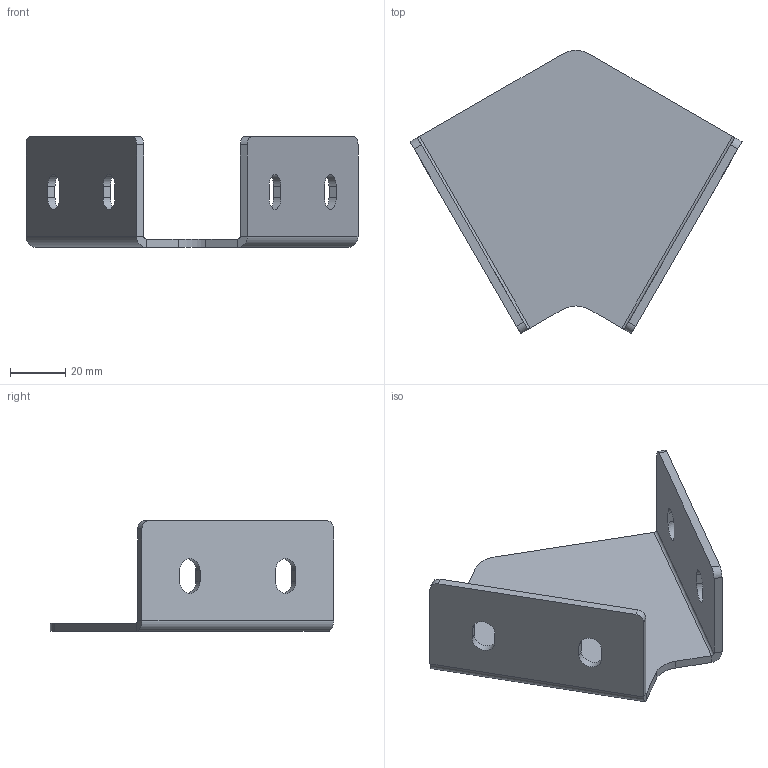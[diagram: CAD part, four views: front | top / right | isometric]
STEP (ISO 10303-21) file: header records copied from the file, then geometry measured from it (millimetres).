
FILE_DESCRIPTION (( 'STEP AP214' ), '1' );
FILE_NAME ('408060.STEP', '2018-02-22T10:03:03', ( '' ), ( '' ), 'SwSTEP 2.0', 'SolidWorks 2014', '' );
FILE_SCHEMA (( 'AUTOMOTIVE_DESIGN' ));
Length unit declared in the file: millimetre
Products named in the file (2): 408060
Bounding box: 120 x 102.38 x 40 mm (x, y, z)
Volume: 38303.1 mm3; surface area: 27395.3 mm2
Topology: 1 solids, 1 shells, 46 faces, 116 edges, 72 vertices
Faces by surface type: plane 28, cylinder 18
Entity records: 1433 total; most frequent: DIRECTION 248, CARTESIAN_POINT 236, ORIENTED_EDGE 232, EDGE_CURVE 116, AXIS2_PLACEMENT_3D 84, VECTOR 80, LINE 80, VERTEX_POINT 72
